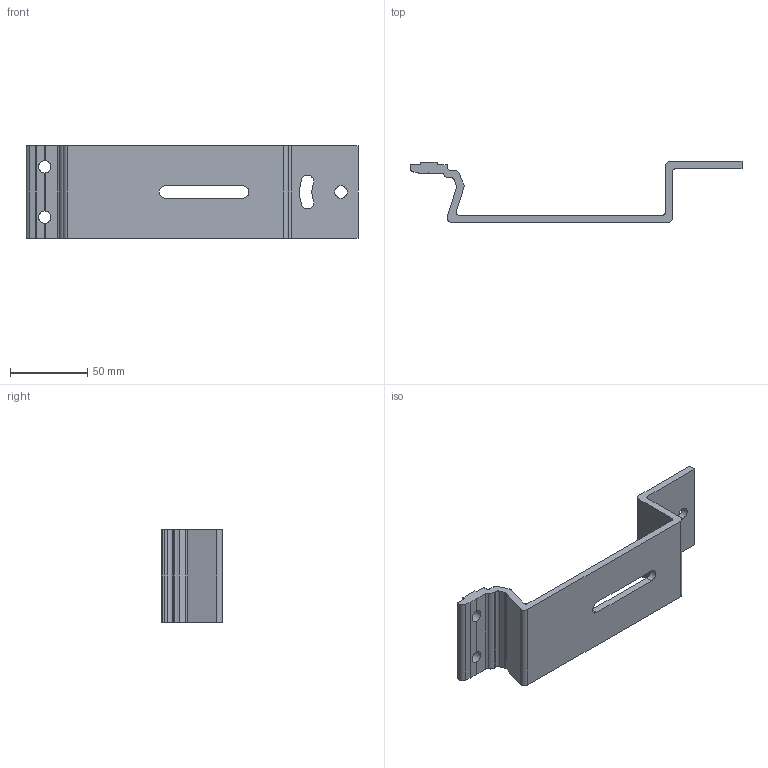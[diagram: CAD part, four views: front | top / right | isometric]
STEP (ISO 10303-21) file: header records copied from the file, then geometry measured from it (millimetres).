
FILE_DESCRIPTION((''),'2;1');
FILE_NAME('C:\Vault Klient\Projekt\Step\100-1270.stp','2009-12-10T08:54:27',('Mathias'),(''),'Autodesk Inventor 2010','Autodesk Inventor 2010','');
FILE_SCHEMA(('CONFIG_CONTROL_DESIGN'));
Length unit declared in the file: millimetre
Products named in the file (1): 100-1270
Bounding box: 215 x 39.5 x 60 mm (x, y, z)
Volume: 76804.3 mm3; surface area: 36869.1 mm2
Topology: 1 solids, 1 shells, 58 faces, 175 edges, 117 vertices
Faces by surface type: plane 33, cylinder 22, bspline 3
Entity records: 2030 total; most frequent: CARTESIAN_POINT 393, DIRECTION 341, ORIENTED_EDGE 338, EDGE_CURVE 169, AXIS2_PLACEMENT_3D 116, VERTEX_POINT 114, VECTOR 109, LINE 109
